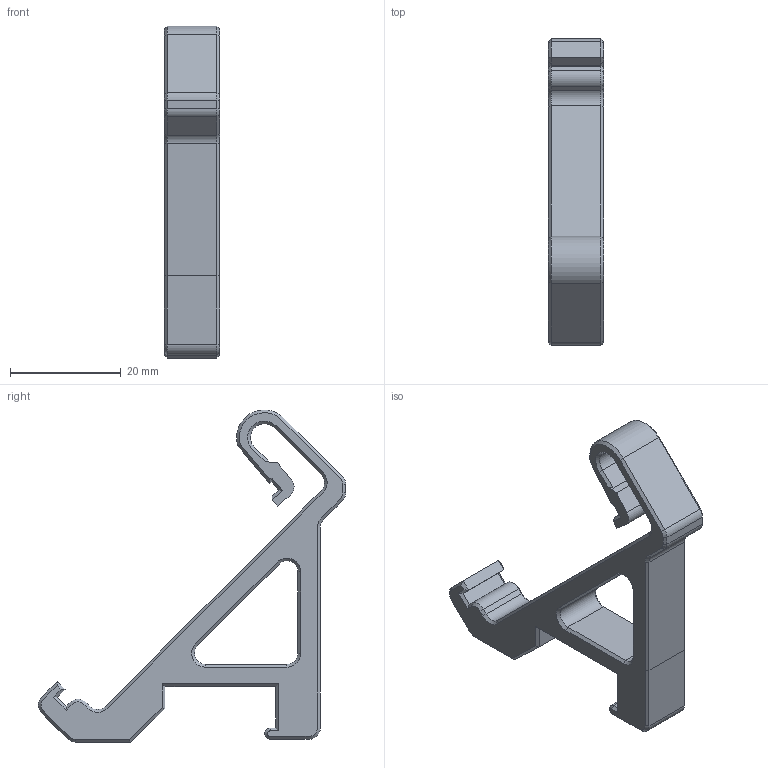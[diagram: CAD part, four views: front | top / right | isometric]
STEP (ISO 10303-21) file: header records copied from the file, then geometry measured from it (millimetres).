
FILE_DESCRIPTION(('CATIA V5 STEP Exchange'),'2;1');
FILE_NAME('D:\_이전 노트북\Cremaker모델링\Cremaker_profile-Metal(5차)-(Final)\Lcd-holder.stp','2020-10-23T05:22:34+00:00',('none'),('none'),'CATIA Version 5 Release 20 GA (IN-10)','CATIA V5 STEP AP203','none');
FILE_SCHEMA(('CONFIG_CONTROL_DESIGN'));
Length unit declared in the file: millimetre
Products named in the file (1): Lcd-holder
Bounding box: 10 x 55.41 x 59.88 mm (x, y, z)
Volume: 7488.8 mm3; surface area: 4731.4 mm2
Topology: 1 solids, 1 shells, 146 faces, 340 edges, 196 vertices
Faces by surface type: plane 100, cone 30, cylinder 16
Entity records: 3983 total; most frequent: CARTESIAN_POINT 750, ORIENTED_EDGE 680, DIRECTION 593, EDGE_CURVE 340, VECTOR 249, LINE 249, AXIS2_PLACEMENT_3D 203, VERTEX_POINT 196
